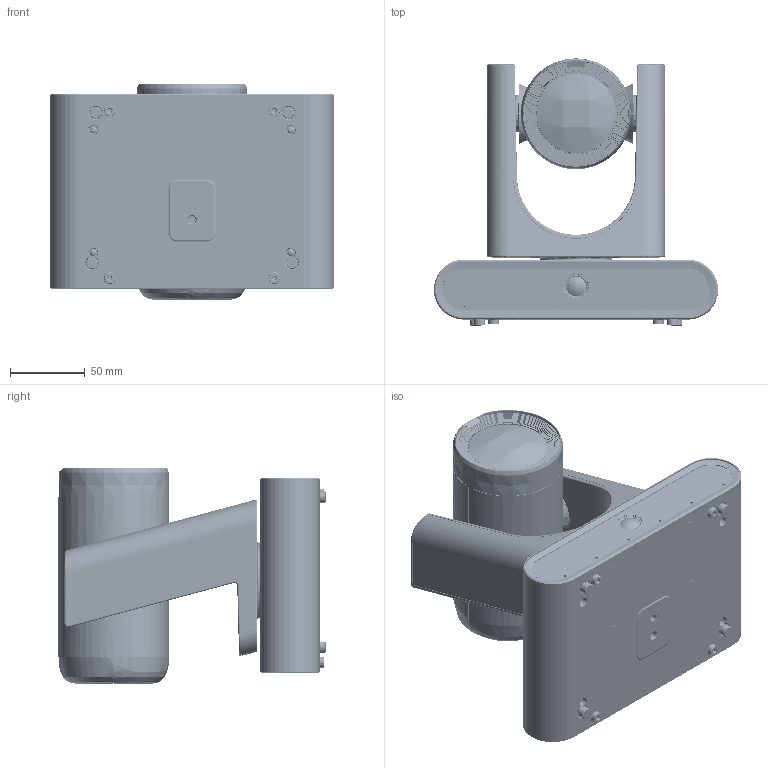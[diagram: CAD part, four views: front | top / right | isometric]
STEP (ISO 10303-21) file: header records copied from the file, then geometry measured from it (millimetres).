
FILE_DESCRIPTION (( 'STEP AP214' ), '1' );
FILE_NAME ('ASSY-VC-TR60A.STEP', '2024-02-22T05:44:50', ( 'a' ), ( '' ), 'SwSTEP 2.0', 'SolidWorks 2020', '' );
FILE_SCHEMA (( 'AUTOMOTIVE_DESIGN' ));
Length unit declared in the file: millimetre
Products named in the file (131): 375-CON-4PIN-P1^ASSY-PCBA-LED-R60_ASM_ASSY-LED-R60_ASM_VC-TR60-鏡頭模組2; DC00380; ____________20H38H-0604A12(2)^_________?像??件-0703_VC-TR30-鏡頭模組; CV22; __________PU-S2M-90-3.2.STEP; 底-PCBA-組立; 4641104-BODY-FRAME-VC-B31U_196; assy-ej5212; CM______1^複製 of ____4K 12X_______VC-TR30-鏡頭模組; 4660182-LEMB3_5-2-F--H3_5---KY_1; 4641151-50; AMC3.5________^AMC-G310U3____(__)_AMC-G320U3_________VC-TR30(2)_VC-TR30; _________MR85ZZ(2)^_________?像??件-0703_VC-TR30-鏡頭模組; 524352472.stp; __________-9.STEP; VCTR301-MIC-V1.0-BOTTOM-0707-2; ASSY-VC-TR60A; GASKET-7X7X8T-VC-TR60A; 3__1.25____________^複製 of ____4K 12X_______VC-TR30-鏡頭模組; SCREW-TD2_6X12-PAN-BZI-47000192_1; 4700-SCREW-M2X5^VC-TR60-鏡頭模組2; AMCE200G200________; ______(2)^______________(2)_____________-1-4_?像??件-0703_VC-TR30-鏡頭模組; RJD-400310_有燈-2; Y04020703031______ CAYF-AMCE200N-TZ-114 V2.1 ABS ____.STEP; 4650380-50-Sponge泡棉,157x9x1.5T,VC-tr301; 4641103-LENS-BOT-VC-B31U_1; 複製 of ____4K 12X______^VC-TR30-鏡頭模組; AMC________-14HK2401-04N^AMC_________________AMC____________1_底-PCBA-組立; ________-0^________________(2)__________?像??件-0703_VC-TR30-鏡頭模組; 零件1^AMC-G310U3____(__)_AMC-G320U3_________VC-TR30(2)_VC-TR30; ________-5(2)^____________-1-4_?像??件-0703_VC-TR30-鏡頭模組; AMC_____6703ZZ^©³-PCBA-²Õ¥ß; PRESS-Counterweight-VC-TR60A; 全景鏡頭; ________-2^複製 of _________VC-TR30-鏡頭模組; 4541432-BASE-TOP-VC-TR40_1; LED-3080036^ASSY-PCBA-LED-R60_ASM_ASSY-LED-R60_ASM_VC-TR60-鏡頭模組2; AMC____________^AMC____________1_底-PCBA-組立; __________(2)^____________-1(2)__________?像??件-0703_VC-TR30-鏡頭模組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
Assembly tree (164 placements, depth 6):
  VCTR301-MIC-V1.0-BOTTOM-0707-2
  ASSY-VC-TR60A
    ASSY-BASE-VC-TR301
      SCREW-M3X6-PAN-SWW-4700028-50_1  x2
      4641106-BASE-TOP-VC-R30_1
      4541432-BASE-TOP-VC-TR40_1
      4641107-BASE-BOT-VC-B31U_1
      4541479-50-Press鈑金,後蓋,IO,VC-TR301
      4641191-50-Plastic塑膠,前蓋,紅外線,VC-TR301
      4520435-50-DIFFUSER-MYLAR-B31_1  x2
      4660182-LEMB3_5-2-F--H3_5---KY_1  x2
      SCREW-TD2X4-PAN-NI-4700023-50_1
      4680226-1133---FOOT---SHENCHI_1  x4
      SCREW-TD2_6X12-PAN-BZI-47000192_1  x4
      SCREW-M3X6_FLAT-NI_4700195-50_1  x8
      SCREW-TD2_6X8-PAN-NI-47000178_1  x3
      底-PCBA-組立
        AMC____________1^底-PCBA-組立
          AMC________________^AMC____________1_底-PCBA-組立
            AMC________-14HK2401-04N^AMC_________________AMC____________1_底-PCBA-組立
            AMC________________-0^AMC_________________AMC____________1_底-PCBA-組立
          AMC____________^AMC____________1_底-PCBA-組立
        AMC-G310U3____(__)^AMC-G320U3_________VC-TR30(2)_VC-TR30
          DC00380
          AMC____^AMC-G310U3____(__)_AMC-G320U3_________VC-TR30(2)_VC-TR30
          AMC______molex_532610471-4__^AMC-G310U3____(__)_AMC-G320U3_________VC-TR30(2)_VC-TR30  x2
          AMC3.5________^AMC-G310U3____(__)_AMC-G320U3_________VC-TR30(2)_VC-TR30  x2
          USB3.0____^AMC-G310U3____(__)_AMC-G320U3_________VC-TR30(2)_VC-TR30
          AMCHDMI____471510001__WE^AMC-G310U3____(__)_AMC-G320U3_________VC-TR30(2)_VC-TR30
          AMCE200G200________
          ____________^AMC-G310U3____(__)_AMC-G320U3_________VC-TR30(2)_VC-TR30
          LUMENS__________^AMC-G310U3____(__)_AMC-G320U3_________VC-TR30(2)_VC-TR30
          USB____^主板?配体(2)_主板?配体
          音源板-0531
          CV22
          SCREW-M2X4-PAN-BZI-4700074-50_1  x4
          COXIAL-TR301
          524352472.stp
          1TS003B
          RJD-400310_有燈
          RJD-400310_有燈-2
          527451297.stp
        AMC_____6703ZZ^©³-PCBA-²Õ¥ß  x2
        AMC__________PU-S2M-93-3.5^底-PCBA-組立
        ____________-__^底-PCBA-組立
        poe-tr301
      assy-audio-pcba-tr301
        audio-pcba-tr301
        525591252^assy-audio-pcba-tr301
      space-u-4  x3
      4650380-50-Sponge泡棉,157x9x1.5T,VC-tr301
      SCREW-M2X4-PAN-BZI-4700074-50_1  x7
      assy-ej5212
        holder-l0119
        EJ_5212_FOV
        全景鏡頭
        4541478-50 Press鈑金,支架,全景鏡頭,VC-TR301
        525592452^assy-ej5212
      GASKET-35X18X13T-VC-TR60A
      GASKET-15X10X14T-VC-TR60A
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Bounding box: 190 x 178.55 x 144 mm (x, y, z)
Volume: 470343.8 mm3; surface area: 667710.4 mm2
Topology: 152 solids, 222 shells, 18887 faces, 52159 edges, 34371 vertices
Faces by surface type: plane 10886, cylinder 4435, bspline 1983, cone 1441, torus 133, sphere 9
Entity records: 720221 total; most frequent: CARTESIAN_POINT 289232, ORIENTED_EDGE 97856, DIRECTION 71468, EDGE_CURVE 49030, VERTEX_POINT 32336, AXIS2_PLACEMENT_3D 24655, VECTOR 22158, LINE 22158
